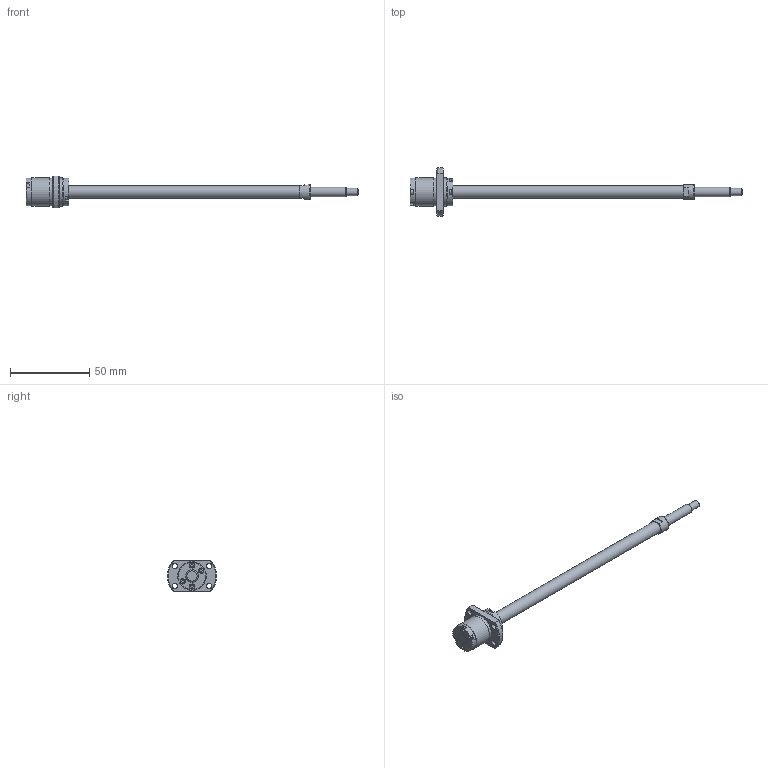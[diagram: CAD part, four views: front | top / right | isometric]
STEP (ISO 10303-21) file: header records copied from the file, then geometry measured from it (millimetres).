
FILE_DESCRIPTION( ( 'STEP AP203' ), '1' );
FILE_NAME( 'e:/temp/worker_95/temp/exporttempdir_5916_155_xJ4y6/format_0/PSRT0812-169R210C5A0X(A0).stp', '2021-10-19T08:16:09', ( 'License CC BY-ND 4.0' ), ( 'CADENAS' ), ' ', 'PARTsolutions', ' ' );
FILE_SCHEMA( ( 'CONFIG_CONTROL_DESIGN' ) );
Length unit declared in the file: millimetre
Products named in the file (3): PSRT0812-169R210C5A0X(A0); _PSRT0812A_shaft; _PSR0812_nut
Assembly tree (2 placements, depth 2):
  PSRT0812-169R210C5A0X(A0)
    _PSRT0812A_shaft
    _PSR0812_nut
Bounding box: 210 x 30.91 x 20 mm (x, y, z)
Volume: 16330 mm3; surface area: 8889.9 mm2
Topology: 2 solids, 2 shells, 150 faces, 360 edges, 236 vertices
Faces by surface type: plane 106, cylinder 32, cone 11, torus 1
Full cylindrical faces by diameter (mm): 3 x8, 3.4 x4, 4.5 x1, 6 x1, 8 x2, 9.5 x1, 17.5 x2, 17.7 x1, 18 x2
Entity records: 4300 total; most frequent: CARTESIAN_POINT 737, DIRECTION 718, ORIENTED_EDGE 654, EDGE_CURVE 327, AXIS2_PLACEMENT_3D 246, VERTEX_POINT 233, LINE 226, VECTOR 226
